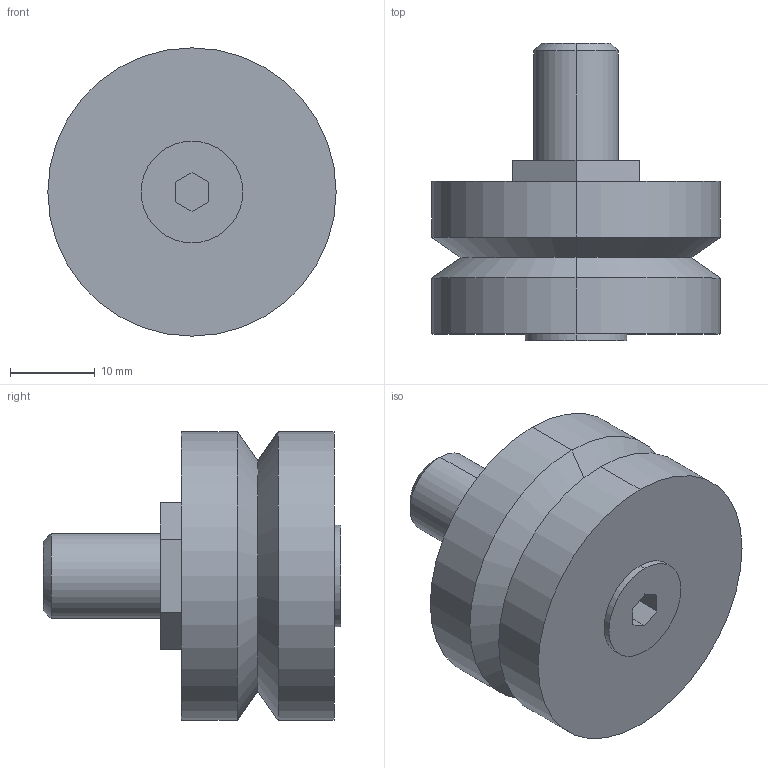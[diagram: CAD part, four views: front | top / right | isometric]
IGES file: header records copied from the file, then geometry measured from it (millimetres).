
Start section: 3D InterOp IGES (Version 21 0 1), Spatial Corp. Copyright (c) 1999-2007.
Global section: file name: RBHJ34C.igs; native system: Spatial Corp.; preprocessor: 3D InterOp GENERIC/IGES 3.0; author: Noname; organization: Noname; date: 20220627.165054; units: millimetre
Bounding box: 34 x 35.1 x 34 mm (x, y, z)
Surface area: 4661 mm2 (no closed solid volume)
Topology: 0 solids, 0 shells, 32 faces, 140 edges, 140 vertices
Faces by surface type: extrusion 18, revolution 14
